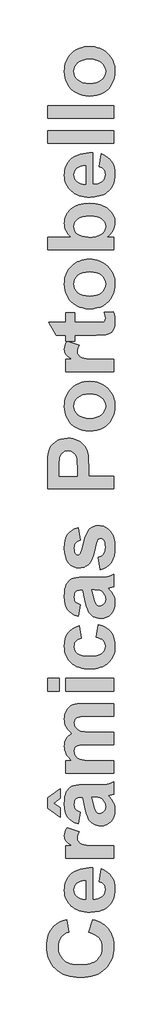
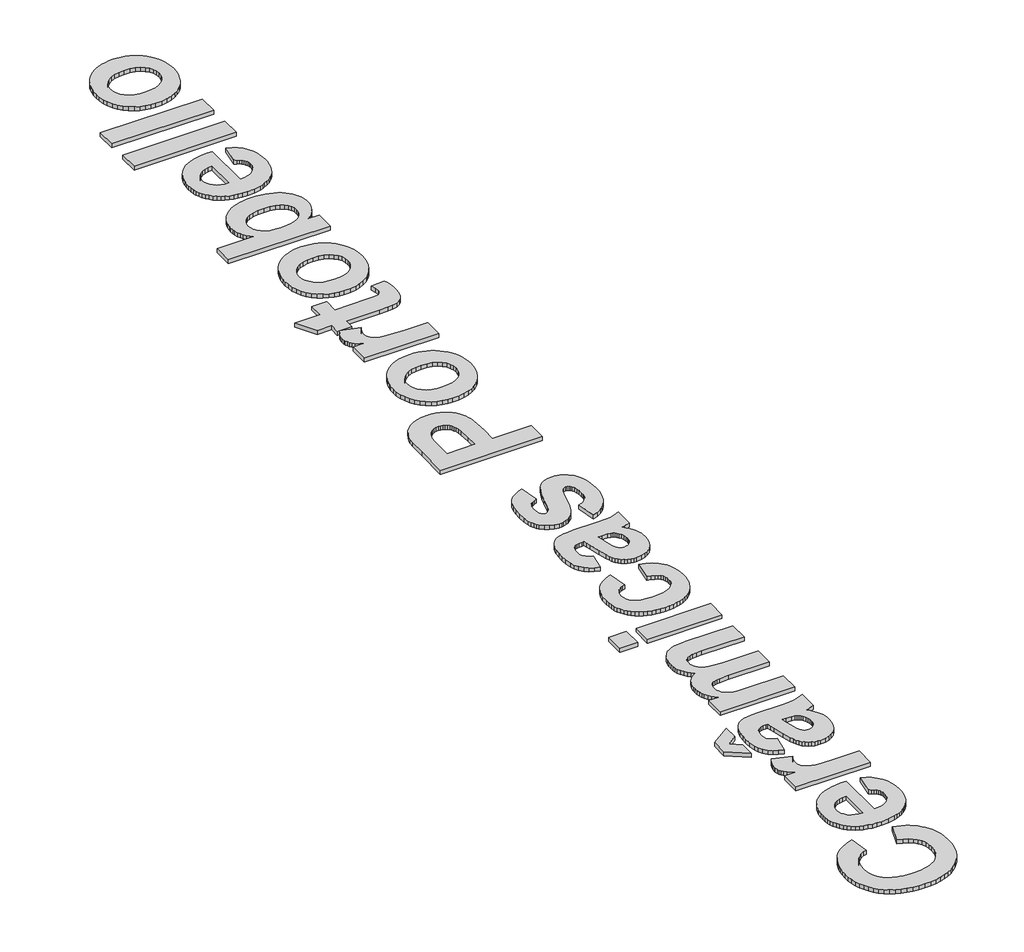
# One storey, part 6 of 12: 1 proxy.
"""IFC4 building model written with IfcOpenShell, lengths in millimetres."""

import ifcopenshell
import ifcopenshell.guid

model = None  # the IFC model being written
_history = None  # IfcOwnerHistory: only IFC2X3 demands one
_inside = {}  # id of a spatial element -> (the spatial element, [elements in it])
_under = {}  # id of a project, library or spatial element -> (it, [spatial elements below it])
_declared = {}  # id of a project -> (the project, [libraries it declares])
_typed = {}  # id of a type object -> (the type object, [elements of that type])
_made_of = {}  # id of a material, layer set ... -> (it, [elements and type objects made of it])


def new_model(schema):
    """Start an empty IFC model of exactly this schema.

    Asked for "IFC4X3", IfcOpenShell would pick the latest addendum, in which some entities
    have other attributes; the version numbers below select the first issue.
    IFC2X3 requires an IfcOwnerHistory on every rooted entity: one is made here for all.
    """
    global model, _history
    if schema == "IFC4X3":
        model = ifcopenshell.file(schema_version=(4, 3, 0, 0))
    else:
        model = ifcopenshell.file(schema=schema)
    _inside.clear()
    _under.clear()
    _declared.clear()
    _typed.clear()
    _made_of.clear()
    _history = None
    if model.schema == "IFC2X3":
        org = make("IfcOrganization", Name="unknown")
        user = make(
            "IfcPersonAndOrganization",
            ThePerson=make("IfcPerson", FamilyName="unknown"),
            TheOrganization=org,
        )
        app = make(
            "IfcApplication",
            ApplicationDeveloper=org,
            Version="unknown",
            ApplicationFullName="unknown",
            ApplicationIdentifier="unknown",
        )
        _history = make(
            "IfcOwnerHistory",
            OwningUser=user,
            OwningApplication=app,
            ChangeAction="ADDED",
            CreationDate=0,
        )
    return model


def make(cls, **values):
    """One entity of the class cls with the attributes given. An attribute that is None is left unset."""
    return model.create_entity(
        cls, **{name: value for name, value in values.items() if value is not None}
    )


def rooted(cls, **values):
    """An entity with a GlobalId (a new one), such as an element, a storey or a relation."""
    return make(cls, GlobalId=ifcopenshell.guid.new(), OwnerHistory=_history, **values)


def si_unit(unit_type, name, prefix=None):
    """IfcSIUnit, for example si_unit("LENGTHUNIT", "METRE", prefix="MILLI")."""
    return make("IfcSIUnit", UnitType=unit_type, Prefix=prefix, Name=name)


def assignment(units):
    """IfcUnitAssignment: the units of a project."""
    return None if units is None else make("IfcUnitAssignment", Units=units)


def point(xyz):
    """IfcCartesianPoint."""
    return None if xyz is None else make("IfcCartesianPoint", Coordinates=xyz)


def direction(xyz):
    """IfcDirection."""
    return None if xyz is None else make("IfcDirection", DirectionRatios=xyz)


def frame(location, z_axis=None, x_axis=None):
    """IfcAxis2Placement3D, a coordinate frame: its origin and axes. An axis left out is left unset."""
    return make(
        "IfcAxis2Placement3D",
        Location=point(location),
        Axis=direction(z_axis),
        RefDirection=direction(x_axis),
    )


def origin():
    """The frame at (0, 0, 0) with its axes left unset."""
    return frame((0.0, 0.0, 0.0))


def origin_with_axes():
    """The frame at (0, 0, 0) with the z axis (0, 0, 1) and the x axis (1, 0, 0) written out."""
    return frame((0.0, 0.0, 0.0), z_axis=(0.0, 0.0, 1.0), x_axis=(1.0, 0.0, 0.0))


def place(relative_to, where):
    """IfcLocalPlacement: puts the frame where relative to a parent placement (None: the world)."""
    return make(
        "IfcLocalPlacement", PlacementRelTo=relative_to, RelativePlacement=where
    )


def context(
    kind, dimensions, precision=None, world=None, true_north=None, identifier=None
):
    """IfcGeometricRepresentationContext, for example the 3D "Model" context."""
    return make(
        "IfcGeometricRepresentationContext",
        ContextIdentifier=identifier,
        ContextType=kind,
        CoordinateSpaceDimension=dimensions,
        Precision=precision,
        WorldCoordinateSystem=world,
        TrueNorth=true_north,
    )


def project(units=None, contexts=None):
    """IfcProject with its units and contexts."""
    return rooted(
        "IfcProject",
        Name="project",
        RepresentationContexts=contexts,
        UnitsInContext=assignment(units),
    )


def spatial(cls, under=None, at=None, **own):
    """A site, building, storey or space (cls), placed at a placement, below another one or the project."""
    s = rooted(cls, ObjectPlacement=at, **own)
    if under is not None:
        _under.setdefault(under.id(), (under, []))[1].append(s)
    return s


def polyline(points):
    """IfcPolyline through the points."""
    return make("IfcPolyline", Points=[point(p) for p in points])


def outline(outer, holes=None, kind="AREA"):
    """IfcArbitraryClosedProfileDef: a profile drawn as a closed curve; with holes, ...WithVoids."""
    if holes is None:
        return make("IfcArbitraryClosedProfileDef", ProfileType=kind, OuterCurve=outer)
    return make(
        "IfcArbitraryProfileDefWithVoids",
        ProfileType=kind,
        OuterCurve=outer,
        InnerCurves=holes,
    )


def extrude(swept, where, along, depth):
    """IfcExtrudedAreaSolid: the profile swept, set in the frame where, extruded along a direction by depth."""
    return make(
        "IfcExtrudedAreaSolid",
        SweptArea=swept,
        Position=where,
        ExtrudedDirection=direction(along),
        Depth=depth,
    )


def shape(context_of_items, identifier, shape_type, items):
    """IfcShapeRepresentation: the items that make up one representation, for example the "Body"."""
    return make(
        "IfcShapeRepresentation",
        ContextOfItems=context_of_items,
        RepresentationIdentifier=identifier,
        RepresentationType=shape_type,
        Items=items,
    )


def made_of(thing, what):
    """Note that an element or type object is made of a material, layer set ...; save() writes the relation."""
    if what is not None:
        _made_of.setdefault(what.id(), (what, []))[1].append(thing)
    return thing


def element(
    cls,
    number,
    at=None,
    inside=None,
    cuts=None,
    type_object=None,
    material=None,
    context=None,
    identifier="Body",
    shape_type=None,
    held_by="IfcProductDefinitionShape",
    body=None,
    shapes=None,
    **own,
):
    """One element of the class cls, such as IfcWall. Its Tag is "e" and its number.

    at: its placement. inside: the storey or other place that contains it. cuts: it is an
    opening in that element (IfcRelVoidsElement). A single representation is given by context,
    identifier, shape_type and body (its items); several are given by shapes. held_by: the class
    of the entity that holds the representations. save() writes the other relations.
    """
    e = rooted(cls, Tag="e%d" % number, ObjectPlacement=at, **own)
    if body is not None:
        shapes = [shape(context, identifier, shape_type, body)]
    if shapes is not None:
        e.Representation = make(held_by, Representations=shapes)
    if inside is not None:
        _inside.setdefault(inside.id(), (inside, []))[1].append(e)
    if cuts is not None:
        rooted(
            "IfcRelVoidsElement", RelatingBuildingElement=cuts, RelatedOpeningElement=e
        )
    if type_object is not None:
        _typed.setdefault(type_object.id(), (type_object, []))[1].append(e)
    return made_of(e, material)


def aggregate(whole, parts):
    """IfcRelAggregates: a whole, such as a stair, and the parts it consists of."""
    return rooted("IfcRelAggregates", RelatingObject=whole, RelatedObjects=parts)


def save(model, path):
    """Write the relations noted so far, then the file.

    IfcRelAggregates (storeys below a building ...), IfcRelContainedInSpatialStructure (elements
    in a storey), IfcRelDefinesByType, IfcRelAssociatesMaterial and IfcRelDeclares: one each for
    every whole, place, type object, material and project.
    """
    for whole, parts in _under.values():
        aggregate(whole, parts)
    for where, things in _inside.values():
        rooted(
            "IfcRelContainedInSpatialStructure",
            RelatedElements=things,
            RelatingStructure=where,
        )
    for kind, things in _typed.values():
        rooted("IfcRelDefinesByType", RelatedObjects=things, RelatingType=kind)
    for what, things in _made_of.values():
        rooted("IfcRelAssociatesMaterial", RelatedObjects=things, RelatingMaterial=what)
    for by, libraries in _declared.values():
        rooted("IfcRelDeclares", RelatingContext=by, RelatedDefinitions=libraries)
    model.write(path)


model = new_model("IFC4")

# Units and contexts
model_context = context("Model", 3, world=origin())
ifc_project = project(units=[si_unit("LENGTHUNIT", "METRE", prefix="MILLI")], contexts=[model_context])

# Site, building, storey
site = spatial("IfcSite", under=ifc_project)
building = spatial("IfcBuilding", under=site)
storey = spatial("IfcBuildingStorey", under=building, Name="PORTOBELLO - SHOWROOM", Elevation=0.0)

# Proxy
placement = place(None, origin())
element("IfcBuildingElementProxy", 1, Name="1200mm Arial", ObjectType="1200mm Arial", at=placement, inside=storey, context=model_context, shape_type="SweptSolid", body=[
    extrude(outline(polyline([(-22223.5662561, -1890.4529479), (-22145.8322066, -1657.2507994), (-22098.1475103, -1672.210239), (-22053.627402, -1689.4565323), (-22012.2718818, -1708.9896794), (-21974.0809497, -1730.8096802), (-21939.0546057, -1754.9165348), (-21907.1928498, -1781.3102432), (-21878.4956819, -1809.9908053), (-21852.9631021, -1840.9582211), (-21830.5097092, -1874.1508121), (-21811.050102, -1909.5068995), (-21794.5842805, -1947.0264835), (-21781.1122448, -1986.709564), (-21770.6339948, -2028.5561409), (-21763.1495305, -2072.5662144), (-21757.161959, -2167.0768507), (-21759.7192498, -2226.8244634), (-21767.3911223, -2283.8487274), (-21780.1775763, -2338.1496427), (-21798.078612, -2389.7272094), (-21821.0942294, -2438.5814274), (-21849.2244283, -2484.7122967), (-21882.4692089, -2528.1198174), (-21920.8285711, -2568.8039895), (-21963.62405, -2605.6688311), (-22010.1771807, -2637.6183605), (-22060.4879633, -2664.6525776), (-22114.5563976, -2686.7714826), (-22172.3824838, -2703.9750753), (-22233.9662217, -2716.2633559), (-22299.3076115, -2723.6363242), (-22368.4066531, -2726.0939803), (-22441.3867037, -2723.6149739), (-22510.1726077, -2716.1779547), (-22574.7643649, -2703.7829227), (-22635.1619754, -2686.4298779), (-22691.3654392, -2664.1188203), (-22743.3747562, -2636.8497499), (-22791.1899266, -2604.6226666), (-22834.8109502, -2567.4375706), (-22873.7396536, -2526.2101522), (-22907.4778632, -2481.8561018), (-22936.025579, -2434.3754194), (-22959.3828011, -2383.768105), (-22977.5495293, -2330.0341586), (-22990.5257638, -2273.1735802), (-22998.3115045, -2213.1863698), (-23000.9067513, -2150.0725274), (-22998.7669774, -2094.9223448), (-22992.3476556, -2042.4290877), (-22981.6487858, -1992.5927562), (-22966.6703682, -1945.4133501), (-22947.4124027, -1900.8908696), (-22923.8748893, -1859.0253146), (-22896.057828, -1819.8166852), (-22863.9612188, -1783.2649812), (-22819.1540677, -1743.8475933), (-22765.5031502, -1709.7061004), (-22703.0084664, -1680.8405024), (-22631.6700161, -1657.2507994), (-22592.8029914, -1890.4529479), (-22635.5130691, -1905.1514395), (-22673.459659, -1926.1696182), (-22706.6427609, -1953.507484), (-22735.062375, -1987.1650369), (-22757.8455113, -2025.9656385), (-22774.1191801, -2068.7326504), (-22783.8833814, -2115.4660725), (-22787.1381152, -2166.1659048), (-22781.2264559, -2235.4642158), (-22773.8368818, -2267.5442192), (-22763.491478, -2297.9114546), (-22750.1902446, -2326.5659219), (-22733.9331816, -2353.5076211), (-22714.7202889, -2378.7365523), (-22692.5515666, -2402.2527154), (-22667.0759209, -2423.4962583), (-22637.9422582, -2441.9073288), (-22605.1505783, -2457.4859269), (-22568.7008813, -2470.2320526), (-22528.5931672, -2480.145706), (-22484.827436, -2487.226887), (-22386.3219223, -2492.8918317), (-22282.0565737, -2487.3976893), (-22235.9873829, -2480.5300113), (-22193.9605146, -2470.9152621), (-22155.9759687, -2458.5534416), (-22122.0337452, -2443.44455), (-22092.133844, -2425.5885871), (-22066.2762653, -2404.9855531), (-22043.9296239, -2382.1810664), (-22024.5625346, -2357.7207459), (-22008.1749976, -2331.6045914), (-21994.7670127, -2303.8326029), (-21984.3385801, -2274.4047805), (-21976.8896996, -2243.3211242), (-21970.9305952, -2176.1863097), (-21974.7356921, -2126.2076428), (-21986.1509828, -2079.8158254), (-22005.1764674, -2037.0108575), (-22031.8121457, -1997.792739), (-22066.627359, -1963.0154817), (-22110.1914486, -1933.5330975), (-22162.5044143, -1909.3455862), (-22223.5662561, -1890.4529479)])), origin_with_axes(), (0.0, 0.0, 1.0), 50.0),
    extrude(outline(polyline([(-22029.2311323, -957.6443537), (-21990.3641076, -724.4422051), (-21932.2628398, -749.6450415), (-21881.5440295, -781.2244991), (-21838.2076764, -819.180578), (-21802.2537807, -863.5132781), (-21774.0239471, -914.013841), (-21753.8597802, -970.4735084), (-21741.76128, -1032.8922801), (-21737.7284466, -1101.2701561), (-21740.1054461, -1155.9126762), (-21747.2364444, -1206.8829456), (-21759.1214416, -1254.1809644), (-21775.7604377, -1297.8067325), (-21797.1534326, -1337.76025), (-21823.3004264, -1374.0415169), (-21854.2014191, -1406.6505332), (-21889.8564107, -1435.5872988), (-21921.2982776, -1455.6565755), (-21954.7423276, -1473.0499486), (-21990.1885607, -1487.7674182), (-22027.636977, -1499.8089842), (-22108.5403591, -1515.8644056), (-22197.4524739, -1521.2162127), (-22251.3690839, -1519.441766), (-22302.2871637, -1514.118426), (-22350.2067133, -1505.2461925), (-22395.1277326, -1492.8250657), (-22437.0502217, -1476.8550456), (-22475.9741806, -1457.336132), (-22511.8996093, -1434.2683251), (-22544.8265077, -1407.6516248), (-22574.2899139, -1378.3210648), (-22599.824866, -1347.111679), (-22621.4313638, -1314.0234672), (-22639.1094076, -1279.0564296), (-22652.8589971, -1242.210566), (-22662.6801326, -1203.4858765), (-22668.5728138, -1162.8823612), (-22670.5370409, -1120.4000199), (-22668.5206242, -1072.9501768), (-22662.4713741, -1028.071858), (-22652.3892907, -985.7650636), (-22638.2743738, -946.0297936), (-22620.1266236, -908.8660478), (-22597.94604, -874.2738265), (-22571.7326231, -842.2531294), (-22541.4863727, -812.8039567), (-22507.0744427, -786.4766715), (-22468.3639868, -763.821637), (-22425.3550049, -744.838853), (-22378.0474971, -729.5283197), (-22326.4414634, -717.890037), (-22270.5369037, -709.924005), (-22210.3338181, -705.6302236), (-22145.8322066, -705.0086928), (-22145.8322066, -1288.0140642), (-22093.6425982, -1283.6680931), (-22047.6018745, -1273.0593691), (-22007.7100356, -1256.187892), (-21973.9670815, -1233.053662), (-21947.1321337, -1205.174922), (-21927.9643139, -1174.0699154), (-21916.463622, -1139.7386421), (-21912.6300581, -1102.181102), (-21914.3570596, -1076.655639), (-21919.5380644, -1053.2177603), (-21928.1730724, -1031.8674659), (-21940.2620835, -1012.6047559), (-21956.1846586, -995.5055424), (-21976.3203584, -980.6457375), (-22000.669183, -968.0253413), (-22029.2311323, -957.6443537)]), holes=[polyline([(-22281.8667933, -938.2108413), (-22331.1053166, -942.367032), (-22374.0621088, -952.4064148), (-22410.7371701, -968.3289899), (-22441.1305002, -990.1347572), (-22464.9764068, -1016.2105834), (-22482.0091971, -1044.9433351), (-22492.2288714, -1076.3330123), (-22495.6354295, -1110.3796151), (-22492.04858, -1146.5517582), (-22481.2880316, -1179.4596786), (-22463.3537844, -1209.1033762), (-22438.2458382, -1235.482851), (-22406.8371829, -1256.9659917), (-22370.304457, -1272.2243354), (-22328.6476605, -1281.2578821), (-22281.8667933, -1284.066632), (-22281.8667933, -938.2108413)])]), origin_with_axes(), (0.0, 0.0, 1.0), 50.0),
    extrude(outline(polyline([(-21757.161959, -296.9049328), (-21757.161959, -530.1070813), (-22651.1035285, -530.1070813), (-22651.1035285, -296.9049328), (-22526.6075898, -296.9049328), (-22599.824866, -247.6379424), (-22625.0751474, -224.9971414), (-22642.7531911, -203.6848031), (-22654.9086254, -182.3155307), (-22663.5910784, -159.5039273), (-22668.8005503, -135.2499929), (-22670.5370409, -109.5537275), (-22667.4625985, -72.8312212), (-22658.2392713, -36.7539682), (-22642.8670594, -1.3219686), (-22621.3459627, 33.4647777), (-22399.3788135, -34.5525156), (-22415.984598, -63.1713991), (-22427.8458726, -90.7275124), (-22434.9626374, -117.2208554), (-22437.3348923, -142.6514283), (-22435.6743139, -166.0039058), (-22430.6925785, -187.4775574), (-22422.3896863, -207.0723831), (-22410.7656371, -224.7883829), (-22394.814595, -240.6730019), (-22373.5307237, -254.7736852), (-22346.9140234, -267.0904328), (-22314.9644941, -277.6232447), (-22270.8595304, -286.0589832), (-22207.7765273, -292.0845108), (-22024.6764029, -296.9049328), (-21757.161959, -296.9049328)])), origin_with_axes(), (0.0, 0.0, 1.0), 50.0),
    extrude(outline(polyline([(-22379.0343552, 324.9674634), (-22417.9013799, 111.1988272), (-22478.099721, 131.2870819), (-22529.9477248, 157.5431995), (-22573.4453911, 189.9671799), (-22608.5927202, 228.5590231), (-22635.6933605, 275.2734671), (-22655.0509607, 332.0652501), (-22666.6655208, 398.9343721), (-22670.5370409, 475.880833), (-22668.193253, 545.663084), (-22661.1618894, 605.9183592), (-22649.4429501, 656.6466586), (-22633.036435, 697.8479822), (-22613.0335814, 731.5909363), (-22590.5256266, 759.9441272), (-22565.5125707, 782.9075549), (-22537.9944135, 800.4812194), (-22503.1981782, 813.5001545), (-22456.3508878, 822.7993938), (-22397.4525424, 828.3789374), (-22326.503142, 830.2387853), (-22050.7901851, 830.2387853), (-21948.4605965, 833.3132277), (-21877.1031682, 842.5365548), (-21819.1821919, 860.1861315), (-21757.161959, 888.5393224), (-21757.161959, 655.3371738), (-21831.252225, 633.4744724), (-21860.7061422, 625.2759594), (-21831.9449234, 595.6132838), (-21806.9982906, 564.925794), (-21785.8662437, 533.2134901), (-21768.5487827, 500.4763721), (-21755.0648857, 466.6764838), (-21745.4335306, 431.7758693), (-21739.6547176, 395.7745285), (-21737.7284466, 358.6724614), (-21742.4065334, 295.6938376), (-21756.4407935, 239.7560663), (-21779.8312271, 190.8591477), (-21812.5778342, 149.0030818), (-21852.460184, 115.4593971), (-21897.2578461, 91.4996223), (-21946.9708204, 77.1237574), (-22001.5991069, 72.3318024), (-22038.3785473, 74.4668319), (-22073.1083595, 80.8719202), (-22105.7885434, 91.5470674), (-22136.4190991, 106.4922734), (-22164.297839, 125.2900215), (-22188.7225757, 147.5227947), (-22209.6933093, 173.190593), (-22227.2100397, 202.2934165), (-22242.4873615, 236.5108216), (-22256.7398691, 277.5223648), (-22282.1704419, 379.9278656), (-22312.1557442, 512.5464051), (-22326.4082518, 560.8075594), (-22340.1673304, 597.0366367), (-22364.7628695, 597.0366367), (-22397.5948777, 595.2242339), (-22425.3407714, 589.7870256), (-22448.0005505, 580.7250118), (-22465.574215, 568.0381925), (-22478.7259963, 550.3411707), (-22488.1201258, 526.2485496), (-22493.7566036, 495.7603293), (-22495.6354295, 458.8765096), (-22494.0222961, 433.1992223), (-22489.1828961, 410.5204652), (-22481.1172293, 390.8402383), (-22469.8252958, 374.1585416), (-22454.4720619, 359.6972755), (-22434.2224939, 346.6783405), (-22379.0343552, 324.9674634)]), holes=[polyline([(-22165.265719, 597.0366367), (-22150.34898, 543.3667412), (-22132.9271398, 465.5567795), (-22114.3666172, 391.1628649), (-22096.0338311, 347.7411107), (-22080.4528608, 329.2754783), (-22062.8602182, 316.0857409), (-22043.2559035, 308.1718985), (-22021.6399166, 305.533951), (-22000.2231991, 307.6500024), (-21980.3057467, 313.9981566), (-21961.8875594, 324.5784136), (-21944.9686373, 339.3907734), (-21930.8205089, 357.4673559), (-21920.7147029, 377.8402812), (-21914.6512193, 400.5095494), (-21912.6300581, 425.4751602), (-21914.9833349, 454.4166704), (-21922.0431656, 482.637015), (-21933.8095501, 510.1361941), (-21950.2824883, 536.9142078), (-21965.3510516, 554.9433452), (-21982.0137702, 569.5564356), (-22000.2706442, 580.7534789), (-22020.1216734, 588.534475), (-22059.368259, 594.9110963), (-22123.0585593, 597.0366367), (-22165.265719, 597.0366367)])]), origin_with_axes(), (0.0, 0.0, 1.0), 50.0),
    extrude(outline(polyline([(-22748.2710904, 227.7999015), (-22981.473239, 394.1993512), (-22981.473239, 588.534475), (-22748.2710904, 752.5047357), (-22748.2710904, 577.6031243), (-22864.8721647, 490.1523186), (-22748.2710904, 402.7015129), (-22748.2710904, 227.7999015)])), origin_with_axes(), (0.0, 0.0, 1.0), 50.0),
    extrude(outline(polyline([(-22651.1035285, 1044.0074215), (-22651.1035285, 1277.20957), (-22531.4659679, 1277.20957), (-22564.0607506, 1305.2638568), (-22592.3095623, 1334.6181393), (-22616.212403, 1365.2724175), (-22635.7692726, 1397.2266914), (-22650.9801712, 1430.480961), (-22661.8450988, 1465.0352263), (-22668.3640554, 1500.8894873), (-22670.5370409, 1538.043744), (-22668.4020114, 1576.9392358), (-22661.9969231, 1613.1588241), (-22651.321776, 1646.7025088), (-22636.3765699, 1677.5702899), (-22617.1043709, 1705.7811455), (-22593.4482447, 1731.3540537), (-22565.4081914, 1754.2890143), (-22532.9842111, 1774.5860275), (-22565.4081914, 1803.8596533), (-22593.4482447, 1834.2909395), (-22617.1043709, 1865.8798862), (-22636.3765699, 1898.6264932), (-22651.321776, 1932.5117826), (-22661.9969231, 1967.5167764), (-22668.4020114, 2003.6414744), (-22670.5370409, 2040.8858768), (-22668.0414287, 2087.0214907), (-22660.5545921, 2129.4753649), (-22648.0765312, 2168.2474995), (-22630.6072459, 2203.3378944), (-22608.2985606, 2234.4998351), (-22581.3022995, 2261.4866072), (-22549.6184626, 2284.2982106), (-22513.2470501, 2302.9346453), (-22480.2821956, 2313.2966549), (-22438.4735747, 2320.6980902), (-22387.8211874, 2325.1389515), (-22328.3250338, 2326.6192385), (-21757.161959, 2326.6192385), (-21757.161959, 2093.41709), (-22271.8463885, 2093.41709), (-22332.8607852, 2091.9368029), (-22381.9949293, 2087.4959417), (-22419.2488207, 2080.0945063), (-22444.6224595, 2069.7324968), (-22466.9406338, 2051.7792715), (-22482.882187, 2029.4990532), (-22492.4471188, 2002.8918419), (-22495.6354295, 1971.9576376), (-22493.7281365, 1948.3204895), (-22488.0062576, 1925.3855288), (-22478.4697928, 1903.1527556), (-22465.1187421, 1881.6221699), (-22448.0859517, 1861.922965), (-22427.5042679, 1845.1843342), (-22403.3736908, 1831.4062776), (-22375.6942202, 1820.5887951), (-22341.9702442, 1812.4187491), (-22299.7061503, 1806.583002), (-22189.5576095, 1801.9144043), (-21757.161959, 1801.9144043), (-21757.161959, 1568.7122557), (-22250.5909843, 1568.7122557), (-22358.727853, 1565.6757694), (-22395.289046, 1561.8801615), (-22420.1787447, 1556.5663105), (-22453.4282698, 1541.1181864), (-22476.9610387, 1519.0657046), (-22490.9668318, 1489.1183583), (-22495.6354295, 1449.985641), (-22493.7850706, 1424.3842658), (-22488.2339941, 1400.1113534), (-22478.9821999, 1377.1669037), (-22466.0296879, 1355.5509168), (-22449.5757278, 1336.0794483), (-22429.8195887, 1319.568554), (-22406.7612708, 1306.0182339), (-22380.400774, 1295.4284879), (-22347.7870133, 1287.4577113), (-22305.9689034, 1281.7642995), (-22194.7196362, 1277.20957), (-21757.161959, 1277.20957), (-21757.161959, 1044.0074215), (-22651.1035285, 1044.0074215)])), origin_with_axes(), (0.0, 0.0, 1.0), 50.0),
    extrude(outline(polyline([(-22767.7046028, 2559.8213871), (-22981.473239, 2559.8213871), (-22981.473239, 2793.0235357), (-22767.7046028, 2793.0235357), (-22767.7046028, 2559.8213871)])), origin_with_axes(), (0.0, 0.0, 1.0), 50.0),
    extrude(outline(polyline([(-21757.161959, 2559.8213871), (-22651.1035285, 2559.8213871), (-22651.1035285, 2793.0235357), (-21757.161959, 2793.0235357), (-21757.161959, 2559.8213871)])), origin_with_axes(), (0.0, 0.0, 1.0), 50.0),
    extrude(outline(polyline([(-22398.4678676, 3764.6991547), (-22359.6008428, 3531.4970061), (-22391.3605918, 3524.2948401), (-22418.9261941, 3513.619693), (-22442.2976496, 3499.4715646), (-22461.4749585, 3481.8504549), (-22476.4201645, 3461.0410347), (-22487.0953117, 3437.3279744), (-22493.5004, 3410.7112741), (-22495.6354295, 3381.1909338), (-22491.6310631, 3342.1341286), (-22479.6179642, 3307.2524922), (-22459.5961326, 3276.5460244), (-22431.5655683, 3250.0147252), (-22394.1598526, 3228.6264748), (-22346.0125666, 3213.349153), (-22287.1237102, 3204.18276), (-22217.4932835, 3201.1272956), (-22140.1198167, 3204.3061173), (-22075.0061635, 3213.8425821), (-22022.1523236, 3229.7366901), (-21981.5582973, 3251.9884413), (-21951.4021926, 3279.5919997), (-21929.8621179, 3311.5415291), (-21916.938073, 3347.8370295), (-21912.6300581, 3388.4785009), (-21915.0877142, 3419.0616115), (-21922.4606825, 3446.741082), (-21934.748963, 3471.5169125), (-21951.9525558, 3493.3891029), (-21975.172187, 3512.3007192), (-22005.508583, 3528.1948272), (-22042.9617439, 3541.071427), (-22087.5316695, 3550.9305185), (-22048.6646447, 3784.132667), (-21976.4057596, 3762.6400374), (-21913.57896, 3733.081741), (-21860.1842461, 3695.4577778), (-21816.2216177, 3649.7681479), (-21797.8247808, 3623.8512628), (-21781.8808554, 3595.8230708), (-21757.3517394, 3533.4327661), (-21742.6342698, 3462.5972339), (-21737.7284466, 3383.3164742), (-21739.6594621, 3337.0741089), (-21745.4525087, 3293.23721), (-21755.1075862, 3251.8057777), (-21768.6246948, 3212.7798119), (-21786.0038344, 3176.1593125), (-21807.2450051, 3141.9442797), (-21832.3482067, 3110.1347133), (-21861.3134394, 3080.7306135), (-21893.6899747, 3054.2918323), (-21929.0270841, 3031.3782219), (-21967.3247677, 3011.9897824), (-22008.5830254, 2996.1265137), (-22052.8018573, 2983.7884158), (-22099.9812633, 2974.9754887), (-22150.1212435, 2969.6877325), (-22203.2217979, 2967.9251471), (-22256.9557443, 2969.6758712), (-22307.6294818, 2974.9280436), (-22355.2430105, 2983.6816643), (-22399.7963303, 2995.9367333), (-22441.2894413, 3011.6932505), (-22479.7223434, 3030.951216), (-22515.0950366, 3053.7106298), (-22547.407521, 3079.9714919), (-22576.2660022, 3109.2213952), (-22601.276686, 3140.9479326), (-22622.4395722, 3175.1511042), (-22639.7546609, 3211.8309099), (-22653.2219522, 3250.9873497), (-22662.8414459, 3292.6204238), (-22668.6131421, 3336.7301319), (-22670.5370409, 3383.3164742), (-22666.3334051, 3457.5016304), (-22653.7224979, 3523.6780539), (-22632.7043193, 3581.8457447), (-22603.2788691, 3632.0047029), (-22565.2563671, 3674.9140501), (-22518.4470329, 3711.3329078), (-22462.8508663, 3741.261276), (-22398.4678676, 3764.6991547)])), origin_with_axes(), (0.0, 0.0, 1.0), 50.0),
    extrude(outline(polyline([(-22379.0343552, 4153.3694023), (-22417.9013799, 3939.6007661), (-22478.099721, 3959.6890208), (-22529.9477248, 3985.9451384), (-22573.4453911, 4018.3691188), (-22608.5927202, 4056.9609619), (-22635.6933605, 4103.675406), (-22655.0509607, 4160.467189), (-22666.6655208, 4227.336311), (-22670.5370409, 4304.2827718), (-22668.193253, 4374.0650228), (-22661.1618894, 4434.320298), (-22649.4429501, 4485.0485975), (-22633.036435, 4526.2499211), (-22613.0335814, 4559.9928752), (-22590.5256266, 4588.3460661), (-22565.5125707, 4611.3094938), (-22537.9944135, 4628.8831583), (-22503.1981782, 4641.9020934), (-22456.3508878, 4651.2013327), (-22397.4525424, 4656.7808763), (-22326.503142, 4658.6407242), (-22050.7901851, 4658.6407242), (-21948.4605965, 4661.7151665), (-21877.1031682, 4670.9384937), (-21819.1821919, 4688.5880704), (-21757.161959, 4716.9412613), (-21757.161959, 4483.7391127), (-21831.252225, 4461.8764113), (-21860.7061422, 4453.6778983), (-21831.9449234, 4424.0152226), (-21806.9982906, 4393.3277329), (-21785.8662437, 4361.615429), (-21768.5487827, 4328.878311), (-21755.0648857, 4295.0784227), (-21745.4335306, 4260.1778082), (-21739.6547176, 4224.1764674), (-21737.7284466, 4187.0744003), (-21742.4065334, 4124.0957764), (-21756.4407935, 4068.1580052), (-21779.8312271, 4019.2610866), (-21812.5778342, 3977.4050206), (-21852.460184, 3943.8613359), (-21897.2578461, 3919.9015612), (-21946.9708204, 3905.5256963), (-22001.5991069, 3900.7337413), (-22038.3785473, 3902.8687708), (-22073.1083595, 3909.2738591), (-22105.7885434, 3919.9490063), (-22136.4190991, 3934.8942123), (-22164.297839, 3953.6919604), (-22188.7225757, 3975.9247336), (-22209.6933093, 4001.5925319), (-22227.2100397, 4030.6953554), (-22242.4873615, 4064.9127605), (-22256.7398691, 4105.9243037), (-22282.1704419, 4208.3298045), (-22312.1557442, 4340.948344), (-22326.4082518, 4389.2094983), (-22340.1673304, 4425.4385756), (-22364.7628695, 4425.4385756), (-22397.5948777, 4423.6261728), (-22425.3407714, 4418.1889645), (-22448.0005505, 4409.1269507), (-22465.574215, 4396.4401313), (-22478.7259963, 4378.7431096), (-22488.1201258, 4354.6504885), (-22493.7566036, 4324.1622682), (-22495.6354295, 4287.2784485), (-22494.0222961, 4261.6011612), (-22489.1828961, 4238.922404), (-22481.1172293, 4219.2421771), (-22469.8252958, 4202.5604805), (-22454.4720619, 4188.0992144), (-22434.2224939, 4175.0802794), (-22379.0343552, 4153.3694023)]), holes=[polyline([(-22165.265719, 4425.4385756), (-22150.34898, 4371.7686801), (-22132.9271398, 4293.9587184), (-22114.3666172, 4219.5648038), (-22096.0338311, 4176.1430496), (-22080.4528608, 4157.6774172), (-22062.8602182, 4144.4876798), (-22043.2559035, 4136.5738374), (-22021.6399166, 4133.9358899), (-22000.2231991, 4136.0519413), (-21980.3057467, 4142.4000955), (-21961.8875594, 4152.9803525), (-21944.9686373, 4167.7927122), (-21930.8205089, 4185.8692948), (-21920.7147029, 4206.2422201), (-21914.6512193, 4228.9114882), (-21912.6300581, 4253.8770991), (-21914.9833349, 4282.8186092), (-21922.0431656, 4311.0389539), (-21933.8095501, 4338.538133), (-21950.2824883, 4365.3161467), (-21965.3510516, 4383.3452841), (-21982.0137702, 4397.9583745), (-22000.2706442, 4409.1554178), (-22020.1216734, 4416.9364139), (-22059.368259, 4423.3130352), (-22123.0585593, 4425.4385756), (-22165.265719, 4425.4385756)])]), origin_with_axes(), (0.0, 0.0, 1.0), 50.0),
    extrude(outline(polyline([(-22009.79762, 4794.6753108), (-22048.6646447, 5027.8774594), (-22017.2749675, 5037.0723195), (-21989.9086346, 5050.0817655), (-21966.5656461, 5066.9057975), (-21947.246002, 5087.5444154), (-21932.1015265, 5112.3202458), (-21921.284044, 5141.5559156), (-21914.7935546, 5175.2514246), (-21912.6300581, 5213.4067729), (-21914.6986644, 5255.1394816), (-21920.9044832, 5291.3685589), (-21931.2475147, 5322.0940047), (-21945.7277588, 5347.3158191), (-21958.2532649, 5360.6004467), (-21972.752487, 5370.0894664), (-21989.2254252, 5375.7828783), (-22007.6720795, 5377.6806822), (-22031.8121457, 5373.6573379), (-22051.3974824, 5361.5873048), (-22067.4149477, 5334.0311915), (-22082.0659941, 5285.3714984), (-22112.5447255, 5160.1354162), (-22141.7329501, 5060.1401264), (-22169.6306681, 4985.3856291), (-22196.2378794, 4935.8719242), (-22215.1827072, 4911.8884269), (-22235.8830037, 4891.1027292), (-22258.3387689, 4873.5148311), (-22282.5500027, 4859.1247327), (-22308.5167052, 4847.932434), (-22336.2388763, 4839.9379349), (-22365.716516, 4835.1412354), (-22396.9496244, 4833.5423356), (-22452.4983458, 4839.026989), (-22503.4543817, 4855.4809492), (-22549.817732, 4882.9042161), (-22591.5883968, 4921.2967899), (-22610.0919853, 4944.7489021), (-22626.1284286, 4971.2280117), (-22639.6977268, 5000.7341185), (-22650.7998799, 5033.2672226), (-22665.6027506, 5107.4144226), (-22670.5370409, 5193.6696119), (-22666.5516526, 5275.7875885), (-22654.5954878, 5346.6326097), (-22634.6685464, 5406.2046755), (-22606.7708284, 5454.5037858), (-22571.0541582, 5493.8452616), (-22527.67036, 5526.5444235), (-22476.6194339, 5552.6012717), (-22417.9013799, 5572.015806), (-22379.0343552, 5338.8136575), (-22405.6225884, 5331.5640464), (-22428.9086428, 5321.6575098), (-22448.8925183, 5309.0940477), (-22465.574215, 5293.8736601), (-22478.7259963, 5275.5788301), (-22488.1201258, 5253.7920408), (-22493.7566036, 5228.5132923), (-22495.6354295, 5199.7425845), (-22494.0412741, 5163.7791998), (-22489.2588082, 5133.3194465), (-22481.2880316, 5108.3633246), (-22470.1289445, 5088.9108342), (-22449.1771889, 5072.2860717), (-22422.759758, 5066.7444841), (-22399.9101986, 5072.2860717), (-22380.5525983, 5088.9108342), (-22367.8183339, 5112.9654992), (-22352.6928364, 5155.3719283), (-22315.2681427, 5295.2400789), (-22292.9309903, 5376.8551375), (-22268.1266927, 5445.1286344), (-22240.8552501, 5500.0605695), (-22211.1166623, 5541.6509429), (-22176.5956085, 5571.9398939), (-22135.887714, 5593.5748588), (-22088.9929785, 5606.5558378), (-22035.9114022, 5610.8828308), (-22005.8573045, 5609.3147703), (-21976.8802106, 5604.6105887), (-21948.9801203, 5596.7702862), (-21922.1570339, 5585.7938627), (-21896.4109511, 5571.6813181), (-21871.7418721, 5554.4326525), (-21825.6347253, 5510.5269583), (-21805.0316912, 5483.9316082), (-21787.1757284, 5454.3234945), (-21772.0668367, 5421.7026169), (-21759.7050163, 5386.0689757), (-21750.0902671, 5347.4225706), (-21743.2225891, 5305.7634018), (-21737.7284466, 5213.4067729), (-21742.3021541, 5128.7931841), (-21756.0232766, 5053.4978126), (-21778.8918142, 4987.5206585), (-21810.9077667, 4930.8617218), (-21850.7806275, 4883.3502001), (-21897.21989, 4844.815291), (-21950.2255542, 4815.2569946), (-22009.79762, 4794.6753108)])), origin_with_axes(), (0.0, 0.0, 1.0), 50.0),
    extrude(outline(polyline([(-21757.161959, 6291.0557641), (-22981.473239, 6291.0557641), (-22981.473239, 6685.4953357), (-22976.9185095, 6870.7969127), (-22971.2250977, 6934.1266303), (-22963.2543211, 6977.9089673), (-22945.5572993, 7028.1533267), (-22919.7946108, 7074.1276272), (-22885.9662555, 7115.8318689), (-22844.0722335, 7153.2660516), (-22794.8147321, 7184.1528108), (-22738.8959389, 7206.2147817), (-22676.3158539, 7219.4519642), (-22607.074477, 7223.8643583), (-22553.2812242, 7221.273856), (-22503.9478107, 7213.5023488), (-22459.0742365, 7200.5498369), (-22418.6605015, 7182.4163202), (-22382.5263144, 7160.2879262), (-22350.4913839, 7135.3507824), (-22322.5557098, 7107.6048888), (-22298.7192923, 7077.0502453), (-22278.7638838, 7044.9678696), (-22262.471237, 7012.6387794), (-22249.8413517, 6980.0629747), (-22240.8742281, 6947.2404555), (-22233.3019904, 6897.423102), (-22227.8932491, 6837.5473876), (-22223.5662561, 6687.6208761), (-22223.5662561, 6524.2579126), (-21757.161959, 6524.2579126), (-21757.161959, 6291.0557641)]), holes=[polyline([(-22767.7046028, 6524.2579126), (-22437.3348923, 6524.2579126), (-22437.3348923, 6669.0983096), (-22441.8896218, 6799.5533527), (-22447.5830336, 6845.3378728), (-22455.5538102, 6878.160392), (-22465.9632648, 6903.0785578), (-22478.9727108, 6925.1500176), (-22494.5821483, 6944.3747716), (-22512.7915771, 6960.7528196), (-22533.0885903, 6973.8381778), (-22554.9607807, 6983.1848622), (-22578.4081484, 6988.7928729), (-22603.4306934, 6990.6622098), (-22633.7765785, 6988.0337513), (-22661.3516698, 6980.1483759), (-22686.1559673, 6967.0060836), (-22708.1894711, 6948.6068744), (-22726.901818, 6926.2032988), (-22741.7426448, 6901.0479076), (-22752.7119516, 6873.1407006), (-22759.8097384, 6842.4816779), (-22765.7308867, 6771.2001618), (-22767.7046028, 6652.0939863), (-22767.7046028, 6524.2579126)])]), origin_with_axes(), (0.0, 0.0, 1.0), 50.0),
    extrude(outline(polyline([(-22216.8859863, 7359.898945), (-22275.1770344, 7363.4952835), (-22332.5381586, 7374.2842989), (-22388.9693588, 7392.2659912), (-22444.4706351, 7417.4403606), (-22496.2522157, 7449.2001095), (-22541.5243288, 7486.937941), (-22580.2869744, 7530.6538548), (-22612.5401524, 7580.3478511), (-22637.9137911, 7634.5681097), (-22656.0378188, 7691.8628108), (-22666.9122353, 7752.2319542), (-22670.5370409, 7815.67554), (-22668.4826681, 7864.7930783), (-22662.3195498, 7911.6379964), (-22652.047686, 7956.2102943), (-22637.6670766, 7998.5099719), (-22619.1777217, 8038.5370294), (-22596.5796212, 8076.2914666), (-22569.8727752, 8111.7732835), (-22539.0571837, 8144.9824803), (-22505.1007266, 8175.0508115), (-22468.9712841, 8201.1100319), (-22430.668856, 8223.1601415), (-22390.1934424, 8241.2011402), (-22347.5450432, 8255.2330281), (-22302.7236586, 8265.2558052), (-22255.7292885, 8271.2694714), (-22206.5619328, 8273.2740269), (-22157.0126441, 8271.2481212), (-22109.6315964, 8265.170404), (-22064.4187897, 8255.0408755), (-22021.374224, 8240.8595355), (-21980.4978993, 8222.6263841), (-21941.7898156, 8200.3414213), (-21905.249973, 8174.0046471), (-21870.8783713, 8143.6160614), (-21839.6713577, 8110.1577779), (-21812.6252793, 8074.6119101), (-21789.740136, 8036.9784579), (-21771.0159278, 7997.2574213), (-21756.4526548, 7955.4488005), (-21746.0503169, 7911.5525953), (-21739.8089142, 7865.5688057), (-21737.7284466, 7817.4974318), (-21741.1919388, 7757.3275578), (-21751.5824154, 7698.5810367), (-21768.8998764, 7641.2578686), (-21793.1443218, 7585.3580535), (-21824.0880151, 7533.4720937), (-21861.5032198, 7488.1904916), (-21905.389936, 7449.5132472), (-21955.7481636, 7417.4403606), (-22012.2647651, 7392.2659912), (-22074.6266027, 7374.2842989), (-22142.8336764, 7363.4952835), (-22216.8859863, 7359.898945)]), holes=[polyline([(-22204.1327438, 7593.1010936), (-22137.6621606, 7597.1339269), (-22079.4470247, 7609.2324271), (-22029.4873359, 7629.396594), (-21987.7830942, 7657.6264276), (-21954.9036409, 7691.7774096), (-21931.4183171, 7729.7050214), (-21917.3271228, 7771.4092631), (-21912.6300581, 7816.8901346), (-21917.3271228, 7862.352028), (-21931.4183171, 7903.9993356), (-21954.9036409, 7941.8320572), (-21987.7830942, 7975.8501929), (-22029.6012041, 8003.9471802), (-22079.9024976, 8024.0164569), (-22138.6869748, 8036.058023), (-22205.9546355, 8040.0718783), (-22271.628141, 8036.058023), (-22329.2739358, 8024.0164569), (-22378.8920199, 8003.9471802), (-22420.4823933, 7975.8501929), (-22453.3618466, 7941.8320572), (-22476.8471704, 7903.9993356), (-22490.9383647, 7862.352028), (-22495.6354295, 7816.8901346), (-22490.9383647, 7771.4092631), (-22476.8471704, 7729.7050214), (-22453.3618466, 7691.7774096), (-22420.4823933, 7657.6264276), (-22378.7781516, 7629.396594), (-22328.8184628, 7609.2324271), (-22270.6033269, 7597.1339269), (-22204.1327438, 7593.1010936)])]), origin_with_axes(), (0.0, 0.0, 1.0), 50.0),
    extrude(outline(polyline([(-22651.1035285, 9536.4523316), (-22476.2019171, 9536.4523316), (-22476.2019171, 9361.5507201), (-22092.6936962, 9361.5507201), (-22000.6502049, 9362.8791829), (-21957.1145825, 9366.8645712), (-21939.5029619, 9375.5565132), (-21925.2314762, 9391.0046373), (-21915.7804126, 9411.8804807), (-21912.6300581, 9436.8555806), (-21918.2475577, 9483.0101725), (-21935.1000567, 9546.1690878), (-21769.3079043, 9555.8858439), (-21755.4918915, 9512.2932874), (-21745.623311, 9465.929937), (-21739.7021627, 9416.7957929), (-21737.7284466, 9364.8908551), (-21743.194122, 9302.7947101), (-21759.5911481, 9247.0751863), (-21784.6421601, 9201.5658477), (-21799.5588991, 9184.0775844), (-21816.0697934, 9170.1002583), (-21856.8346221, 9149.3382832), (-21909.8972204, 9135.9397874), (-21973.2838721, 9130.2463755), (-22079.6368051, 9128.3485716), (-22476.2019171, 9128.3485716), (-22476.2019171, 9011.7474973), (-22621.3459627, 9011.7474973), (-22651.1035285, 9011.7474973), (-22651.1035285, 9128.3485716), (-22826.0051399, 9128.3485716), (-22962.0397266, 9361.5507201), (-22651.1035285, 9361.5507201), (-22651.1035285, 9536.4523316)])), origin_with_axes(), (0.0, 0.0, 1.0), 50.0),
    extrude(outline(polyline([(-21757.161959, 8681.3777868), (-21757.161959, 8448.1756383), (-22651.1035285, 8448.1756383), (-22651.1035285, 8681.3777868), (-22526.6075898, 8681.3777868), (-22599.824866, 8730.6447772), (-22625.0751474, 8753.2855783), (-22642.7531911, 8774.5979165), (-22654.9086254, 8795.9671889), (-22663.5910784, 8818.7787923), (-22668.8005503, 8843.0327267), (-22670.5370409, 8868.7289921), (-22667.4625985, 8905.4514984), (-22658.2392713, 8941.5287514), (-22642.8670594, 8976.960751), (-22621.3459627, 9011.7474973), (-22399.3788135, 8943.730204), (-22415.984598, 8915.1113205), (-22427.8458726, 8887.5552073), (-22434.9626374, 8861.0618642), (-22437.3348923, 8835.6312914), (-22435.6743139, 8812.2788138), (-22430.6925785, 8790.8051622), (-22422.3896863, 8771.2103365), (-22410.7656371, 8753.4943367), (-22394.814595, 8737.6097177), (-22373.5307237, 8723.5090344), (-22346.9140234, 8711.1922868), (-22314.9644941, 8700.6594749), (-22270.8595304, 8692.2237364), (-22207.7765273, 8686.1982089), (-22024.6764029, 8681.3777868), (-21757.161959, 8681.3777868)])), origin_with_axes(), (0.0, 0.0, 1.0), 50.0),
    extrude(outline(polyline([(-22216.8859863, 9614.1863811), (-22275.1770344, 9617.7827196), (-22332.5381586, 9628.571735), (-22388.9693588, 9646.5534273), (-22444.4706351, 9671.7277967), (-22496.2522157, 9703.4875456), (-22541.5243288, 9741.2253771), (-22580.2869744, 9784.9412909), (-22612.5401524, 9834.6352872), (-22637.9137911, 9888.8555458), (-22656.0378188, 9946.1502469), (-22666.9122353, 10006.5193903), (-22670.5370409, 10069.9629761), (-22668.4826681, 10119.0805144), (-22662.3195498, 10165.9254325), (-22652.047686, 10210.4977304), (-22637.6670766, 10252.797408), (-22619.1777217, 10292.8244655), (-22596.5796212, 10330.5789027), (-22569.8727752, 10366.0607196), (-22539.0571837, 10399.2699164), (-22505.1007266, 10429.3382476), (-22468.9712841, 10455.397468), (-22430.668856, 10477.4475776), (-22390.1934424, 10495.4885763), (-22347.5450432, 10509.5204642), (-22302.7236586, 10519.5432413), (-22255.7292885, 10525.5569075), (-22206.5619328, 10527.561463), (-22157.0126441, 10525.5355572), (-22109.6315964, 10519.4578401), (-22064.4187897, 10509.3283116), (-22021.374224, 10495.1469716), (-21980.4978993, 10476.9138202), (-21941.7898156, 10454.6288574), (-21905.249973, 10428.2920832), (-21870.8783713, 10397.9034975), (-21839.6713577, 10364.445214), (-21812.6252793, 10328.8993462), (-21789.740136, 10291.265894), (-21771.0159278, 10251.5448574), (-21756.4526548, 10209.7362366), (-21746.0503169, 10165.8400313), (-21739.8089142, 10119.8562418), (-21737.7284466, 10071.7848679), (-21741.1919388, 10011.6149939), (-21751.5824154, 9952.8684728), (-21768.8998764, 9895.5453047), (-21793.1443218, 9839.6454896), (-21824.0880151, 9787.7595298), (-21861.5032198, 9742.4779277), (-21905.389936, 9703.8006833), (-21955.7481636, 9671.7277967), (-22012.2647651, 9646.5534273), (-22074.6266027, 9628.571735), (-22142.8336764, 9617.7827196), (-22216.8859863, 9614.1863811)]), holes=[polyline([(-22204.1327438, 9847.3885297), (-22137.6621606, 9851.421363), (-22079.4470247, 9863.5198632), (-22029.4873359, 9883.6840301), (-21987.7830942, 9911.9138637), (-21954.9036409, 9946.0648457), (-21931.4183171, 9983.9924575), (-21917.3271228, 10025.6966992), (-21912.6300581, 10071.1775707), (-21917.3271228, 10116.6394641), (-21931.4183171, 10158.2867717), (-21954.9036409, 10196.1194933), (-21987.7830942, 10230.137629), (-22029.6012041, 10258.2346163), (-22079.9024976, 10278.303893), (-22138.6869748, 10290.3454591), (-22205.9546355, 10294.3593144), (-22271.628141, 10290.3454591), (-22329.2739358, 10278.303893), (-22378.8920199, 10258.2346163), (-22420.4823933, 10230.137629), (-22453.3618466, 10196.1194933), (-22476.8471704, 10158.2867717), (-22490.9383647, 10116.6394641), (-22495.6354295, 10071.1775707), (-22490.9383647, 10025.6966992), (-22476.8471704, 9983.9924575), (-22453.3618466, 9946.0648457), (-22420.4823933, 9911.9138637), (-22378.7781516, 9883.6840301), (-22328.8184628, 9863.5198632), (-22270.6033269, 9851.421363), (-22204.1327438, 9847.3885297)])]), origin_with_axes(), (0.0, 0.0, 1.0), 50.0),
    extrude(outline(polyline([(-21757.161959, 10702.4630744), (-22981.473239, 10702.4630744), (-22981.473239, 10935.6652229), (-22548.1666426, 10935.6652229), (-22576.8472047, 10963.0030887), (-22601.7036919, 10991.5745271), (-22622.7361041, 11021.379538), (-22639.9444413, 11052.4181215), (-22653.3287036, 11084.6902776), (-22662.888891, 11118.1960062), (-22668.6250034, 11152.9353074), (-22670.5370409, 11188.9081811), (-22668.6914265, 11227.9744753), (-22663.1545835, 11265.3137679), (-22653.9265119, 11300.9260589), (-22641.0072115, 11334.8113483), (-22624.3966825, 11366.9696361), (-22604.0949248, 11397.4009224), (-22580.1019385, 11426.105207), (-22552.4177234, 11453.0824901), (-22521.2795052, 11477.5641609), (-22486.9245094, 11498.781609), (-22449.3527358, 11516.7348343), (-22408.5641845, 11531.4238368), (-22364.5588556, 11542.8486166), (-22317.336749, 11551.0091735), (-22266.8978647, 11555.9055077), (-22213.2422027, 11557.5376191), (-22157.793116, 11555.9149967), (-22105.6177411, 11551.0471296), (-22056.7160779, 11542.9340178), (-22011.0881266, 11531.5756612), (-21968.7338871, 11516.9720598), (-21929.6533594, 11499.1232137), (-21893.8465435, 11478.0291229), (-21861.3134394, 11453.6897873), (-21832.3482067, 11427.0351309), (-21807.2450051, 11398.9950777), (-21786.0038344, 11369.5696275), (-21768.6246948, 11338.7587805), (-21755.1075862, 11306.5625366), (-21745.4525087, 11272.9808958), (-21739.6594621, 11238.0138582), (-21737.7284466, 11201.6614236), (-21740.0627455, 11165.3469452), (-21747.065642, 11129.2791812), (-21758.7371363, 11093.4581318), (-21775.0772282, 11057.8837969), (-21796.0100057, 11023.6569028), (-21821.4595566, 10991.8781757), (-21851.4258809, 10962.5476158), (-21885.9089785, 10935.6652229), (-21757.161959, 10935.6652229), (-21757.161959, 10702.4630744)]), holes=[polyline([(-22221.1370671, 10935.6652229), (-22154.2964122, 10938.3601045), (-22096.7929527, 10946.4447493), (-22048.6266886, 10959.9191573), (-22009.79762, 10978.7833285), (-21967.2868116, 11011.3496442), (-21936.9219485, 11048.9261623), (-21926.2942464, 11069.5932472), (-21918.7030307, 11091.5128828), (-21912.6300581, 11139.1098057), (-21916.938073, 11176.1074935), (-21929.8621179, 11210.2774535), (-21951.4021926, 11241.6196857), (-21981.5582973, 11270.1341899), (-22020.9567071, 11293.8472502), (-22070.2236975, 11310.7851504), (-22129.3592684, 11320.9478905), (-22198.3634198, 11324.3354705), (-22271.7989434, 11320.9289125), (-22334.208226, 11310.7092382), (-22385.5912678, 11293.6764478), (-22425.9480687, 11269.8305413), (-22456.436289, 11240.6518057), (-22478.2135893, 11207.620528), (-22491.2799694, 11170.7367084), (-22495.6354295, 11130.0003467), (-22491.3843486, 11090.0041286), (-22478.6311061, 11053.5188478), (-22457.375702, 11020.5445043), (-22427.6181361, 10991.0810981), (-22389.2065843, 10966.8366527), (-22341.9892222, 10949.5191917), (-22285.9660498, 10939.1287151), (-22221.1370671, 10935.6652229)])]), origin_with_axes(), (0.0, 0.0, 1.0), 50.0),
    extrude(outline(polyline([(-22029.2311323, 12237.7105524), (-21990.3641076, 12470.912701), (-21932.2628398, 12445.7098646), (-21881.5440295, 12414.130407), (-21838.2076764, 12376.1743281), (-21802.2537807, 12331.841628), (-21774.0239471, 12281.3410651), (-21753.8597802, 12224.8813978), (-21741.76128, 12162.4626261), (-21737.7284466, 12094.08475), (-21740.1054461, 12039.4422299), (-21747.2364444, 11988.4719605), (-21759.1214416, 11941.1739417), (-21775.7604377, 11897.5481736), (-21797.1534326, 11857.5946561), (-21823.3004264, 11821.3133892), (-21854.2014191, 11788.7043729), (-21889.8564107, 11759.7676073), (-21921.2982776, 11739.6983306), (-21954.7423276, 11722.3049575), (-21990.1885607, 11707.5874879), (-22027.636977, 11695.5459219), (-22108.5403591, 11679.4905005), (-22197.4524739, 11674.1386934), (-22251.3690839, 11675.9131401), (-22302.2871637, 11681.2364801), (-22350.2067133, 11690.1087136), (-22395.1277326, 11702.5298404), (-22437.0502217, 11718.4998606), (-22475.9741806, 11738.0187741), (-22511.8996093, 11761.086581), (-22544.8265077, 11787.7032814), (-22574.2899139, 11817.0338413), (-22599.824866, 11848.2432271), (-22621.4313638, 11881.3314389), (-22639.1094076, 11916.2984766), (-22652.8589971, 11953.1443401), (-22662.6801326, 11991.8690296), (-22668.5728138, 12032.472545), (-22670.5370409, 12074.9548862), (-22668.5206242, 12122.4047293), (-22662.4713741, 12167.2830481), (-22652.3892907, 12209.5898425), (-22638.2743738, 12249.3251125), (-22620.1266236, 12286.4888583), (-22597.94604, 12321.0810796), (-22571.7326231, 12353.1017767), (-22541.4863727, 12382.5509494), (-22507.0744427, 12408.8782346), (-22468.3639868, 12431.5332691), (-22425.3550049, 12450.5160531), (-22378.0474971, 12465.8265864), (-22326.4414634, 12477.4648691), (-22270.5369037, 12485.4309011), (-22210.3338181, 12489.7246826), (-22145.8322066, 12490.3462133), (-22145.8322066, 11907.3408419), (-22093.6425982, 11911.686813), (-22047.6018745, 11922.295537), (-22007.7100356, 11939.1670141), (-21973.9670815, 11962.3012441), (-21947.1321337, 11990.1799841), (-21927.9643139, 12021.2849907), (-21916.463622, 12055.616264), (-21912.6300581, 12093.1738041), (-21914.3570596, 12118.6992671), (-21919.5380644, 12142.1371458), (-21928.1730724, 12163.4874402), (-21940.2620835, 12182.7501502), (-21956.1846586, 12199.8493637), (-21976.3203584, 12214.7091686), (-22000.669183, 12227.3295648), (-22029.2311323, 12237.7105524)]), holes=[polyline([(-22281.8667933, 12257.1440648), (-22331.1053166, 12252.9878742), (-22374.0621088, 12242.9484913), (-22410.7371701, 12227.0259162), (-22441.1305002, 12205.2201489), (-22464.9764068, 12179.1443227), (-22482.0091971, 12150.411571), (-22492.2288714, 12119.0218938), (-22495.6354295, 12084.975291), (-22492.04858, 12048.8031479), (-22481.2880316, 12015.8952275), (-22463.3537844, 11986.2515299), (-22438.2458382, 11959.8720551), (-22406.8371829, 11938.3889145), (-22370.304457, 11923.1305708), (-22328.6476605, 11914.097024), (-22281.8667933, 11911.2882741), (-22281.8667933, 12257.1440648)])]), origin_with_axes(), (0.0, 0.0, 1.0), 50.0),
    extrude(outline(polyline([(-21757.161959, 12665.2478248), (-22981.473239, 12665.2478248), (-22981.473239, 12898.4499733), (-21757.161959, 12898.4499733), (-21757.161959, 12665.2478248)])), origin_with_axes(), (0.0, 0.0, 1.0), 50.0),
    extrude(outline(polyline([(-21757.161959, 13131.6521219), (-22981.473239, 13131.6521219), (-22981.473239, 13364.8542705), (-21757.161959, 13364.8542705), (-21757.161959, 13131.6521219)])), origin_with_axes(), (0.0, 0.0, 1.0), 50.0),
    extrude(outline(polyline([(-22216.8859863, 13539.7558819), (-22275.1770344, 13543.3522203), (-22332.5381586, 13554.1412358), (-22388.9693588, 13572.1229281), (-22444.4706351, 13597.2972974), (-22496.2522157, 13629.0570464), (-22541.5243288, 13666.7948778), (-22580.2869744, 13710.5107917), (-22612.5401524, 13760.2047879), (-22637.9137911, 13814.4250466), (-22656.0378188, 13871.7197477), (-22666.9122353, 13932.0888911), (-22670.5370409, 13995.5324769), (-22668.4826681, 14044.6500152), (-22662.3195498, 14091.4949333), (-22652.047686, 14136.0672312), (-22637.6670766, 14178.3669088), (-22619.1777217, 14218.3939662), (-22596.5796212, 14256.1484034), (-22569.8727752, 14291.6302204), (-22539.0571837, 14324.8394172), (-22505.1007266, 14354.9077484), (-22468.9712841, 14380.9669688), (-22430.668856, 14403.0170784), (-22390.1934424, 14421.0580771), (-22347.5450432, 14435.089965), (-22302.7236586, 14445.1127421), (-22255.7292885, 14451.1264083), (-22206.5619328, 14453.1309637), (-22157.0126441, 14451.105058), (-22109.6315964, 14445.0273409), (-22064.4187897, 14434.8978124), (-22021.374224, 14420.7164724), (-21980.4978993, 14402.483321), (-21941.7898156, 14380.1983582), (-21905.249973, 14353.861584), (-21870.8783713, 14323.4729983), (-21839.6713577, 14290.0147148), (-21812.6252793, 14254.468847), (-21789.740136, 14216.8353948), (-21771.0159278, 14177.1143582), (-21756.4526548, 14135.3057373), (-21746.0503169, 14091.4095321), (-21739.8089142, 14045.4257426), (-21737.7284466, 13997.3543687), (-21741.1919388, 13937.1844947), (-21751.5824154, 13878.4379736), (-21768.8998764, 13821.1148055), (-21793.1443218, 13765.2149903), (-21824.0880151, 13713.3290305), (-21861.5032198, 13668.0474284), (-21905.389936, 13629.3701841), (-21955.7481636, 13597.2972974), (-22012.2647651, 13572.1229281), (-22074.6266027, 13554.1412358), (-22142.8336764, 13543.3522203), (-22216.8859863, 13539.7558819)]), holes=[polyline([(-22204.1327438, 13772.9580304), (-22137.6621606, 13776.9908638), (-22079.4470247, 13789.089364), (-22029.4873359, 13809.2535309), (-21987.7830942, 13837.4833645), (-21954.9036409, 13871.6343465), (-21931.4183171, 13909.5619583), (-21917.3271228, 13951.2661999), (-21912.6300581, 13996.7470714), (-21917.3271228, 14042.2089649), (-21931.4183171, 14083.8562724), (-21954.9036409, 14121.6889941), (-21987.7830942, 14155.7071297), (-22029.6012041, 14183.8041171), (-22079.9024976, 14203.8733938), (-22138.6869748, 14215.9149598), (-22205.9546355, 14219.9288152), (-22271.628141, 14215.9149598), (-22329.2739358, 14203.8733938), (-22378.8920199, 14183.8041171), (-22420.4823933, 14155.7071297), (-22453.3618466, 14121.6889941), (-22476.8471704, 14083.8562724), (-22490.9383647, 14042.2089649), (-22495.6354295, 13996.7470714), (-22490.9383647, 13951.2661999), (-22476.8471704, 13909.5619583), (-22453.3618466, 13871.6343465), (-22420.4823933, 13837.4833645), (-22378.7781516, 13809.2535309), (-22328.8184628, 13789.089364), (-22270.6033269, 13776.9908638), (-22204.1327438, 13772.9580304)])]), origin_with_axes(), (0.0, 0.0, 1.0), 50.0),
])

save(model, "model.ifc")
